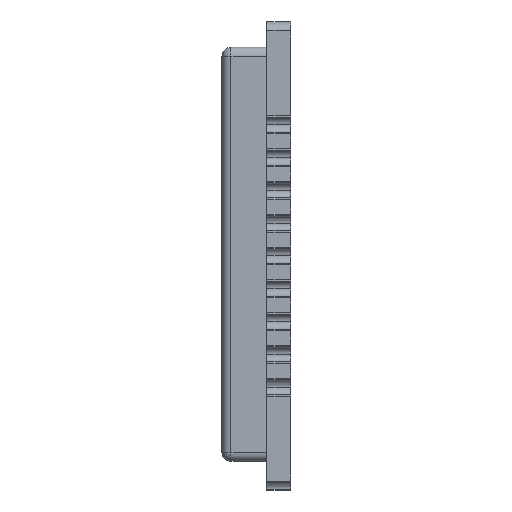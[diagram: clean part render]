
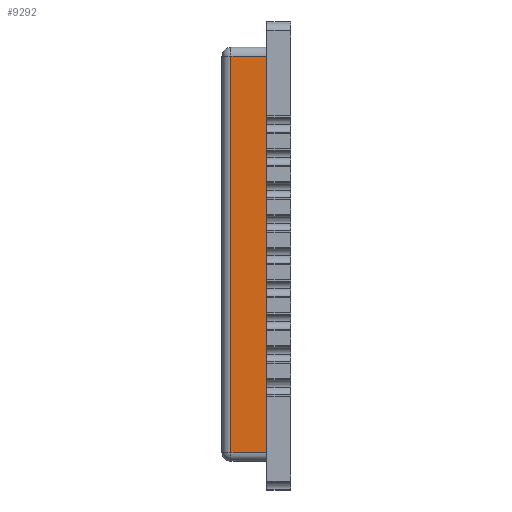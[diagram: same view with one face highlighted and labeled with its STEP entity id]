
A CAD part, left-side view. The second image highlights one B-rep face of the part: STEP entity #9292.
In plain terms, the highlighted planar face has unit normal (-1, 0, 0).
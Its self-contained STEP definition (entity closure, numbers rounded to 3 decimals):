
#149 = CARTESIAN_POINT ( 'NONE',  ( -7.9, 0., 6.65 ) ) ;
#2610 = EDGE_LOOP ( 'NONE', ( #60225, #25842, #30511, #11106 ) ) ;
#3507 = LINE ( 'NONE', #27522, #4455 ) ;
#3552 = VECTOR ( 'NONE', #19463, 1000. ) ;
#4455 = VECTOR ( 'NONE', #60702, 1000. ) ;
#5560 = CARTESIAN_POINT ( 'NONE',  ( -7.9, 1.2, -6.65 ) ) ;
#7635 = EDGE_CURVE ( 'NONE', #16006, #11879, #3507, .T. ) ;
#8716 = CARTESIAN_POINT ( 'NONE',  ( -7.9, 1.5, -6.65 ) ) ;
#9292 = ADVANCED_FACE ( 'NONE', ( #24869 ), #30293, .F. ) ;
#9451 = EDGE_CURVE ( 'NONE', #32823, #16006, #23558, .T. ) ;
#11106 = ORIENTED_EDGE ( 'NONE', *, *, #17777, .T. ) ;
#11879 = VERTEX_POINT ( 'NONE', #149 ) ;
#16006 = VERTEX_POINT ( 'NONE', #31948 ) ;
#17552 = CARTESIAN_POINT ( 'NONE',  ( -7.9, 1.2, -6.95 ) ) ;
#17777 = EDGE_CURVE ( 'NONE', #11879, #46111, #26184, .T. ) ;
#17965 = DIRECTION ( 'NONE',  ( 0., 1., 0. ) ) ;
#19463 = DIRECTION ( 'NONE',  ( 0., -1., 0. ) ) ;
#22034 = VECTOR ( 'NONE', #47536, 1000. ) ;
#23558 = LINE ( 'NONE', #8716, #3552 ) ;
#24869 = FACE_OUTER_BOUND ( 'NONE', #2610, .T. ) ;
#25190 = CARTESIAN_POINT ( 'NONE',  ( -7.9, 1.5, -6.95 ) ) ;
#25842 = ORIENTED_EDGE ( 'NONE', *, *, #9451, .T. ) ;
#26184 = LINE ( 'NONE', #46062, #40524 ) ;
#27522 = CARTESIAN_POINT ( 'NONE',  ( -7.9, 0., -6.95 ) ) ;
#29664 = DIRECTION ( 'NONE',  ( 0., 0., -1. ) ) ;
#30293 = PLANE ( 'NONE',  #34810 ) ;
#30511 = ORIENTED_EDGE ( 'NONE', *, *, #7635, .T. ) ;
#31948 = CARTESIAN_POINT ( 'NONE',  ( -7.9, 0., -6.65 ) ) ;
#32823 = VERTEX_POINT ( 'NONE', #5560 ) ;
#34810 = AXIS2_PLACEMENT_3D ( 'NONE', #25190, #58721, #29664 ) ;
#40524 = VECTOR ( 'NONE', #17965, 1000. ) ;
#41874 = LINE ( 'NONE', #17552, #22034 ) ;
#46062 = CARTESIAN_POINT ( 'NONE',  ( -7.9, 1.5, 6.65 ) ) ;
#46111 = VERTEX_POINT ( 'NONE', #51583 ) ;
#47536 = DIRECTION ( 'NONE',  ( 0., 0., -1. ) ) ;
#47797 = EDGE_CURVE ( 'NONE', #46111, #32823, #41874, .T. ) ;
#51583 = CARTESIAN_POINT ( 'NONE',  ( -7.9, 1.2, 6.65 ) ) ;
#58721 = DIRECTION ( 'NONE',  ( 1., 0., 0. ) ) ;
#60225 = ORIENTED_EDGE ( 'NONE', *, *, #47797, .T. ) ;
#60702 = DIRECTION ( 'NONE',  ( 0., 0., 1. ) ) ;
